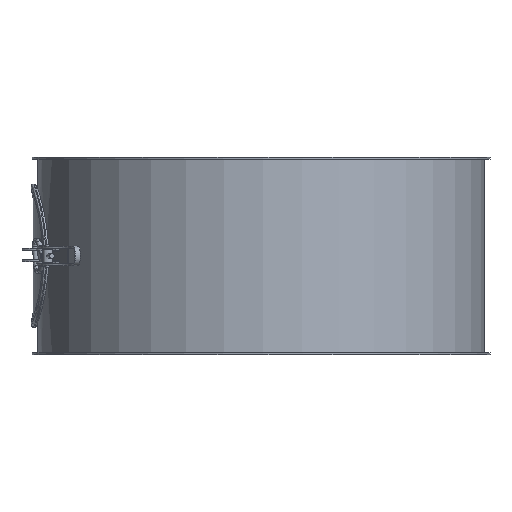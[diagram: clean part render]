
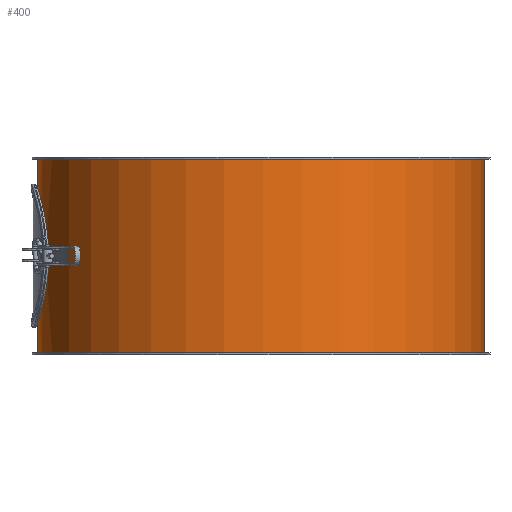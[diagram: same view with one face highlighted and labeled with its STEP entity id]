
A CAD part, front view. The second image highlights one B-rep face of the part: STEP entity #400.
In plain terms, the highlighted cylindrical face has radius 225.5 mm (diameter 451 mm), a full revolution.
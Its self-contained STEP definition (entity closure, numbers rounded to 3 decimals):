
#143=CARTESIAN_POINT('',(225.5,0.,198.0));
#144=VERTEX_POINT('',#143);
#145=CARTESIAN_POINT('',(0.0,0.0,198.0));
#146=DIRECTION('',(0.0,0.0,-1.0));
#147=DIRECTION('',(-1.0,0.0,0.0));
#148=AXIS2_PLACEMENT_3D('',#145,#146,#147);
#149=CIRCLE('',#148,225.5);
#150=EDGE_CURVE('',#144,#144,#149,.T.);
#191=CARTESIAN_POINT('',(-225.5,0.,2.0));
#192=VERTEX_POINT('',#191);
#193=CARTESIAN_POINT('',(0.0,0.0,2.0));
#194=DIRECTION('',(0.0,0.0,1.0));
#195=DIRECTION('',(-1.0,0.0,0.0));
#196=AXIS2_PLACEMENT_3D('',#193,#194,#195);
#197=CIRCLE('',#196,225.5);
#198=EDGE_CURVE('',#192,#192,#197,.T.);
#281=CARTESIAN_POINT('',(-218.046,-57.5,100.0));
#282=VERTEX_POINT('',#281);
#283=CARTESIAN_POINT('',(-218.046,-57.5,100.0));
#284=CARTESIAN_POINT('',(-218.046,-57.5,96.372));
#285=CARTESIAN_POINT('',(-218.139,-57.151,92.627));
#286=CARTESIAN_POINT('',(-218.517,-55.688,85.185));
#287=CARTESIAN_POINT('',(-218.802,-54.574,81.49));
#288=CARTESIAN_POINT('',(-219.514,-51.635,74.412));
#289=CARTESIAN_POINT('',(-219.941,-49.808,71.023));
#290=CARTESIAN_POINT('',(-220.854,-45.592,64.759));
#291=CARTESIAN_POINT('',(-221.338,-43.202,61.885));
#292=CARTESIAN_POINT('',(-222.27,-38.115,56.798));
#293=CARTESIAN_POINT('',(-222.752,-35.241,54.409));
#294=CARTESIAN_POINT('',(-223.653,-28.977,50.192));
#295=CARTESIAN_POINT('',(-224.072,-25.588,48.365));
#296=CARTESIAN_POINT('',(-224.767,-18.509,45.426));
#297=CARTESIAN_POINT('',(-225.044,-14.814,44.312));
#298=CARTESIAN_POINT('',(-225.41,-7.373,42.849));
#299=CARTESIAN_POINT('',(-225.5,-3.627,42.5));
#300=CARTESIAN_POINT('',(-225.5,3.627,42.5));
#301=CARTESIAN_POINT('',(-225.41,7.373,42.849));
#302=CARTESIAN_POINT('',(-225.044,14.814,44.312));
#303=CARTESIAN_POINT('',(-224.767,18.509,45.426));
#304=CARTESIAN_POINT('',(-224.072,25.588,48.365));
#305=CARTESIAN_POINT('',(-223.653,28.977,50.192));
#306=CARTESIAN_POINT('',(-222.752,35.241,54.409));
#307=CARTESIAN_POINT('',(-222.27,38.115,56.798));
#308=CARTESIAN_POINT('',(-221.338,43.202,61.885));
#309=CARTESIAN_POINT('',(-220.854,45.592,64.759));
#310=CARTESIAN_POINT('',(-219.941,49.808,71.023));
#311=CARTESIAN_POINT('',(-219.514,51.635,74.412));
#312=CARTESIAN_POINT('',(-218.802,54.574,81.49));
#313=CARTESIAN_POINT('',(-218.517,55.688,85.185));
#314=CARTESIAN_POINT('',(-218.139,57.151,92.627));
#315=CARTESIAN_POINT('',(-218.046,57.5,96.372));
#316=CARTESIAN_POINT('',(-218.046,57.5,103.628));
#317=CARTESIAN_POINT('',(-218.139,57.151,107.373));
#318=CARTESIAN_POINT('',(-218.517,55.688,114.815));
#319=CARTESIAN_POINT('',(-218.802,54.574,118.51));
#320=CARTESIAN_POINT('',(-219.514,51.635,125.588));
#321=CARTESIAN_POINT('',(-219.941,49.808,128.977));
#322=CARTESIAN_POINT('',(-220.854,45.592,135.241));
#323=CARTESIAN_POINT('',(-221.338,43.202,138.115));
#324=CARTESIAN_POINT('',(-222.27,38.115,143.202));
#325=CARTESIAN_POINT('',(-222.752,35.241,145.591));
#326=CARTESIAN_POINT('',(-223.653,28.977,149.808));
#327=CARTESIAN_POINT('',(-224.072,25.588,151.635));
#328=CARTESIAN_POINT('',(-224.767,18.509,154.574));
#329=CARTESIAN_POINT('',(-225.044,14.814,155.688));
#330=CARTESIAN_POINT('',(-225.41,7.373,157.151));
#331=CARTESIAN_POINT('',(-225.5,3.627,157.5));
#332=CARTESIAN_POINT('',(-225.5,-3.627,157.5));
#333=CARTESIAN_POINT('',(-225.41,-7.373,157.151));
#334=CARTESIAN_POINT('',(-225.044,-14.814,155.688));
#335=CARTESIAN_POINT('',(-224.767,-18.509,154.574));
#336=CARTESIAN_POINT('',(-224.072,-25.588,151.635));
#337=CARTESIAN_POINT('',(-223.653,-28.977,149.808));
#338=CARTESIAN_POINT('',(-222.752,-35.241,145.591));
#339=CARTESIAN_POINT('',(-222.27,-38.115,143.202));
#340=CARTESIAN_POINT('',(-221.338,-43.202,138.115));
#341=CARTESIAN_POINT('',(-220.854,-45.592,135.241));
#342=CARTESIAN_POINT('',(-219.941,-49.808,128.977));
#343=CARTESIAN_POINT('',(-219.514,-51.635,125.588));
#344=CARTESIAN_POINT('',(-218.802,-54.574,118.51));
#345=CARTESIAN_POINT('',(-218.517,-55.688,114.815));
#346=CARTESIAN_POINT('',(-218.139,-57.151,107.373));
#347=CARTESIAN_POINT('',(-218.046,-57.5,103.628));
#348=CARTESIAN_POINT('',(-218.046,-57.5,100.0));
#349=B_SPLINE_CURVE_WITH_KNOTS('',3,(#283,#284,#285,#286,#287,#288,#289,#290,#291,#292,#293,#294,#295,#296,#297,#298,#299,#300,#301,#302,#303,#304,#305,#306,#307,#308,#309,#310,#311,#312,#313,#314,#315,#316,#317,#318,#319,#320,#321,#322,#323,#324,#325,#326,#327,#328,#329,#330,#331,#332,#333,#334,#335,#336,#337,#338,#339,#340,#341,#342,#343,#344,#345,#346,#347,#348),.UNSPECIFIED.,.T.,.U.,(4,2,2,2,2,2,2,2,2,2,2,2,2,2,2,2,2,2,2,2,2,2,2,2,2,2,2,2,2,2,2,2,4),(0.0,1.088,2.177,3.265,4.353,5.441,6.529,7.617,8.705,9.793,10.882,11.97,13.058,14.146,15.234,16.322,17.411,18.499,19.587,20.675,21.764,22.852,23.94,25.028,26.116,27.204,28.292,29.38,30.468,31.557,32.645,33.733,34.821),.UNSPECIFIED.);
#350=EDGE_CURVE('',#282,#282,#349,.T.);
#386=CARTESIAN_POINT('',(0.0,0.0,0.0));
#387=DIRECTION('',(0.0,0.0,1.0));
#388=DIRECTION('',(-1.0,0.0,0.0));
#389=AXIS2_PLACEMENT_3D('',#386,#387,#388);
#390=CYLINDRICAL_SURFACE('',#389,225.5);
#391=ORIENTED_EDGE('',*,*,#150,.T.);
#392=EDGE_LOOP('',(#391));
#393=FACE_OUTER_BOUND('',#392,.T.);
#394=ORIENTED_EDGE('',*,*,#198,.T.);
#395=EDGE_LOOP('',(#394));
#396=FACE_BOUND('',#395,.T.);
#397=ORIENTED_EDGE('',*,*,#350,.T.);
#398=EDGE_LOOP('',(#397));
#399=FACE_BOUND('',#398,.T.);
#400=ADVANCED_FACE('',(#393,#396,#399),#390,.T.);
